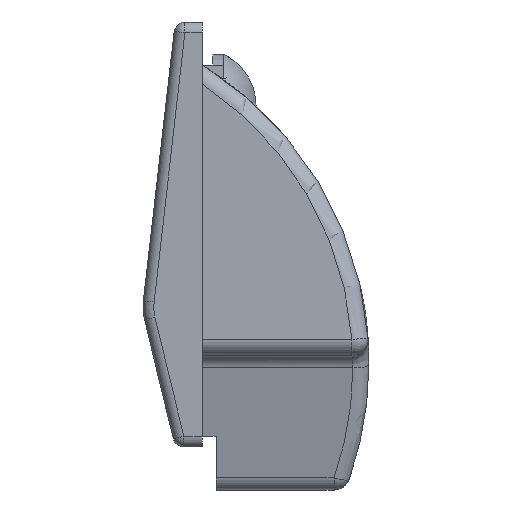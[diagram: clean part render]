
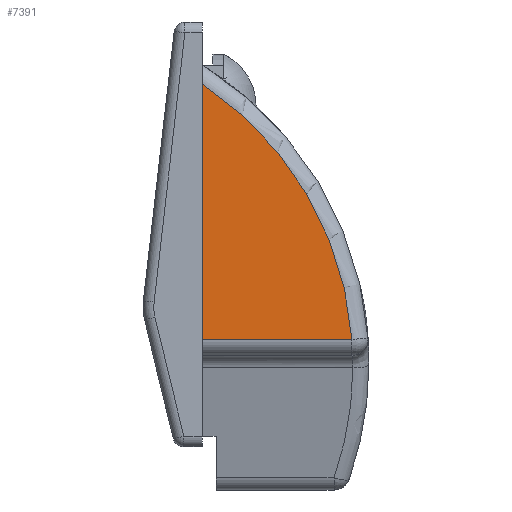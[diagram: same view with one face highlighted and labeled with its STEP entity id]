
A CAD part, left-side view. The second image highlights one B-rep face of the part: STEP entity #7391.
In plain terms, the highlighted planar face has unit normal (-1, 0, 0).
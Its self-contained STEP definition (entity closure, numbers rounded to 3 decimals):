
#302 = VECTOR ( 'NONE', #888, 1000. ) ;
#888 = DIRECTION ( 'NONE',  ( 0., 0., 1. ) ) ;
#1138 = VERTEX_POINT ( 'NONE', #1417 ) ;
#1395 = DIRECTION ( 'NONE',  ( 0., -1., 0. ) ) ;
#1417 = CARTESIAN_POINT ( 'NONE',  ( 4., -13.92, -9.75 ) ) ;
#1818 = DIRECTION ( 'NONE',  ( 1., 0., 0. ) ) ;
#1902 = DIRECTION ( 'NONE',  ( -1., 0., 0. ) ) ;
#2505 = EDGE_CURVE ( 'NONE', #1138, #3856, #7053, .T. ) ;
#2957 = AXIS2_PLACEMENT_3D ( 'NONE', #7813, #1902, #8835 ) ;
#3144 = ORIENTED_EDGE ( 'NONE', *, *, #8042, .F. ) ;
#3414 = VERTEX_POINT ( 'NONE', #9764 ) ;
#3526 = LINE ( 'NONE', #7315, #8474 ) ;
#3856 = VERTEX_POINT ( 'NONE', #5098 ) ;
#4878 = CARTESIAN_POINT ( 'NONE',  ( 4., 0., 0. ) ) ;
#5098 = CARTESIAN_POINT ( 'NONE',  ( 4., 0., 13.972 ) ) ;
#6417 = ORIENTED_EDGE ( 'NONE', *, *, #2505, .T. ) ;
#7053 = CIRCLE ( 'NONE', #2957, 31.062 ) ;
#7315 = CARTESIAN_POINT ( 'NONE',  ( 4., 41.743, -9.75 ) ) ;
#7391 = ADVANCED_FACE ( 'NONE', ( #8051 ), #11687, .F. ) ;
#7813 = CARTESIAN_POINT ( 'NONE',  ( 4., 17.062, -11.984 ) ) ;
#7870 = EDGE_LOOP ( 'NONE', ( #3144, #10824, #6417 ) ) ;
#8042 = EDGE_CURVE ( 'NONE', #3414, #3856, #8486, .T. ) ;
#8051 = FACE_OUTER_BOUND ( 'NONE', #7870, .T. ) ;
#8474 = VECTOR ( 'NONE', #1395, 1000. ) ;
#8486 = LINE ( 'NONE', #4878, #302 ) ;
#8744 = DIRECTION ( 'NONE',  ( 0., 0., -1. ) ) ;
#8835 = DIRECTION ( 'NONE',  ( 0., 0., -1. ) ) ;
#8987 = EDGE_CURVE ( 'NONE', #3414, #1138, #3526, .T. ) ;
#9764 = CARTESIAN_POINT ( 'NONE',  ( 4., 0., -9.75 ) ) ;
#10824 = ORIENTED_EDGE ( 'NONE', *, *, #8987, .T. ) ;
#11687 = PLANE ( 'NONE',  #12524 ) ;
#12524 = AXIS2_PLACEMENT_3D ( 'NONE', #12693, #1818, #8744 ) ;
#12693 = CARTESIAN_POINT ( 'NONE',  ( 4., 41.743, 0. ) ) ;
